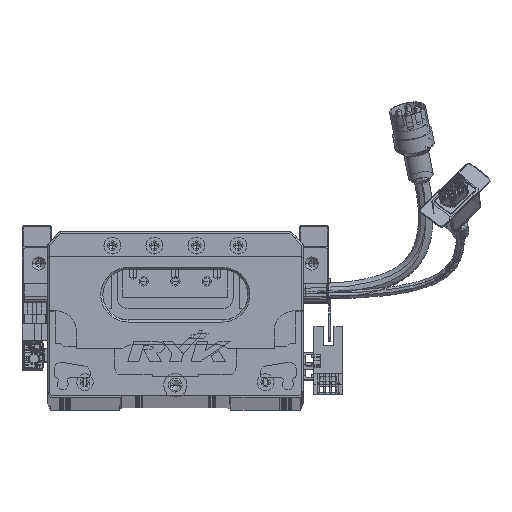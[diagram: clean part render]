
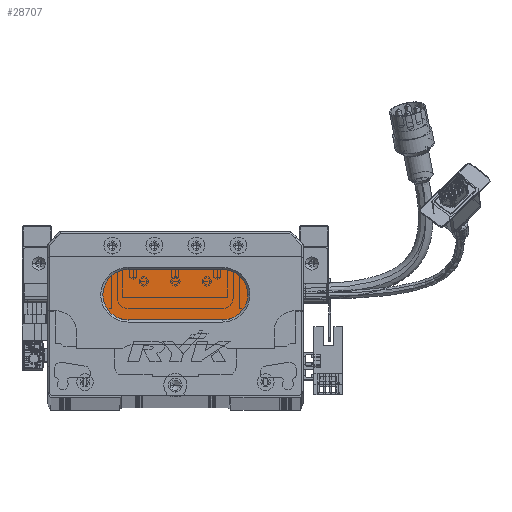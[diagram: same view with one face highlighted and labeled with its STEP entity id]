
A CAD part, top view. The second image highlights one B-rep face of the part: STEP entity #28707.
In plain terms, the highlighted planar face has unit normal (0, 0, 1) as drawn and (0, 0, -1) by its records, which use the part's own axes.
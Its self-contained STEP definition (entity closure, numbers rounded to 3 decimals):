
#2398 = EDGE_CURVE ( 'NONE', #96900, #61516, #10939, .T. ) ;
#2651 = CARTESIAN_POINT ( 'NONE',  ( 38.5, 48., 13. ) ) ;
#3601 = DIRECTION ( 'NONE',  ( -1., 0., 0. ) ) ;
#4751 = ORIENTED_EDGE ( 'NONE', *, *, #123583, .T. ) ;
#5285 = DIRECTION ( 'NONE',  ( 0., 0., -1. ) ) ;
#6783 = ORIENTED_EDGE ( 'NONE', *, *, #2398, .T. ) ;
#8224 = PLANE ( 'NONE',  #19102 ) ;
#8518 = DIRECTION ( 'NONE',  ( 0., 0., -1. ) ) ;
#10939 = CIRCLE ( 'NONE', #33906, 12. ) ;
#13565 = EDGE_CURVE ( 'NONE', #61516, #87798, #85420, .T. ) ;
#14761 = EDGE_CURVE ( 'NONE', #87798, #29008, #100538, .T. ) ;
#17230 = LINE ( 'NONE', #137042, #85763 ) ;
#18205 = DIRECTION ( 'NONE',  ( 1., 0., 0. ) ) ;
#19102 = AXIS2_PLACEMENT_3D ( 'NONE', #61324, #82844, #73287 ) ;
#22990 = ORIENTED_EDGE ( 'NONE', *, *, #103535, .T. ) ;
#27779 = DIRECTION ( 'NONE',  ( -1., 0., 0. ) ) ;
#28707 = ADVANCED_FACE ( 'NONE', ( #100290 ), #8224, .T. ) ;
#29008 = VERTEX_POINT ( 'NONE', #112566 ) ;
#29103 = DIRECTION ( 'NONE',  ( -1., 0., 0. ) ) ;
#33906 = AXIS2_PLACEMENT_3D ( 'NONE', #61240, #5285, #114004 ) ;
#35735 = CARTESIAN_POINT ( 'NONE',  ( 38.5, 60., 13. ) ) ;
#42793 = AXIS2_PLACEMENT_3D ( 'NONE', #62560, #8518, #29103 ) ;
#58318 = VERTEX_POINT ( 'NONE', #76495 ) ;
#61240 = CARTESIAN_POINT ( 'NONE',  ( 38.5, 48., 13. ) ) ;
#61324 = CARTESIAN_POINT ( 'NONE',  ( 83.5, 48., 13. ) ) ;
#61516 = VERTEX_POINT ( 'NONE', #96086 ) ;
#62560 = CARTESIAN_POINT ( 'NONE',  ( 83.5, 48., 13. ) ) ;
#68651 = DIRECTION ( 'NONE',  ( 0., 0., -1. ) ) ;
#69998 = ORIENTED_EDGE ( 'NONE', *, *, #13565, .T. ) ;
#73287 = DIRECTION ( 'NONE',  ( -1., 0., 0. ) ) ;
#76495 = CARTESIAN_POINT ( 'NONE',  ( 83.5, 36., 13. ) ) ;
#81309 = ORIENTED_EDGE ( 'NONE', *, *, #14761, .T. ) ;
#82844 = DIRECTION ( 'NONE',  ( 0., 0., -1. ) ) ;
#85420 = CIRCLE ( 'NONE', #128338, 12. ) ;
#85763 = VECTOR ( 'NONE', #27779, 1000. ) ;
#87798 = VERTEX_POINT ( 'NONE', #35735 ) ;
#93647 = VECTOR ( 'NONE', #18205, 1000. ) ;
#96086 = CARTESIAN_POINT ( 'NONE',  ( 26.5, 48., 13. ) ) ;
#96900 = VERTEX_POINT ( 'NONE', #124063 ) ;
#100290 = FACE_OUTER_BOUND ( 'NONE', #108036, .T. ) ;
#100538 = LINE ( 'NONE', #118049, #93647 ) ;
#103535 = EDGE_CURVE ( 'NONE', #58318, #96900, #17230, .T. ) ;
#108036 = EDGE_LOOP ( 'NONE', ( #4751, #22990, #6783, #69998, #81309 ) ) ;
#110079 = CIRCLE ( 'NONE', #42793, 12. ) ;
#112566 = CARTESIAN_POINT ( 'NONE',  ( 83.5, 60., 13. ) ) ;
#114004 = DIRECTION ( 'NONE',  ( -1., 0., 0. ) ) ;
#118049 = CARTESIAN_POINT ( 'NONE',  ( 83.5, 60., 13. ) ) ;
#123583 = EDGE_CURVE ( 'NONE', #29008, #58318, #110079, .T. ) ;
#124063 = CARTESIAN_POINT ( 'NONE',  ( 38.5, 36., 13. ) ) ;
#128338 = AXIS2_PLACEMENT_3D ( 'NONE', #2651, #68651, #3601 ) ;
#137042 = CARTESIAN_POINT ( 'NONE',  ( 83.5, 36., 13. ) ) ;
